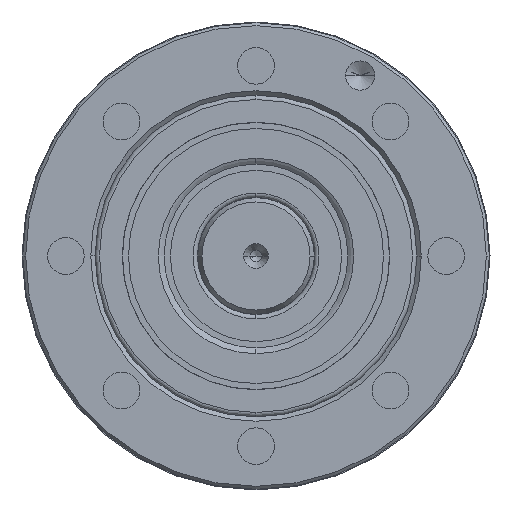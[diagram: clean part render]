
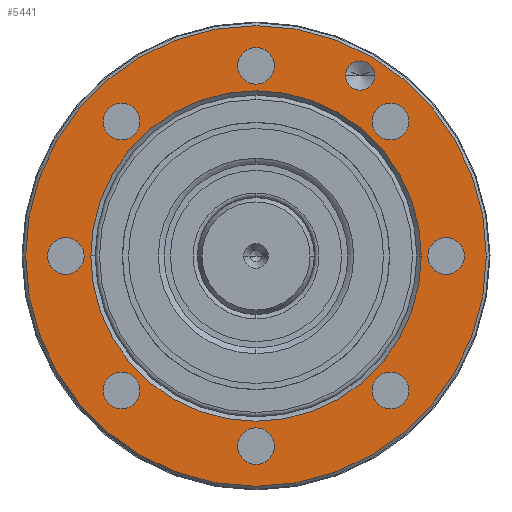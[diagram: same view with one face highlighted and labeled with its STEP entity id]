
A CAD part, left-side view. The second image highlights one B-rep face of the part: STEP entity #5441.
In plain terms, the highlighted planar face has unit normal (-1, 0, 0).
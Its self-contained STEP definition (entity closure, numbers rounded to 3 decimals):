
#1116=CARTESIAN_POINT('',(-2.85,0.,0.));
#1117=DIRECTION('',(-1.,0.,0.));
#1118=DIRECTION('',(0.,1.,0.));
#1119=AXIS2_PLACEMENT_3D('',#1116,#1117,#1118);
#1124=CARTESIAN_POINT('',(-2.85,0.,0.));
#1125=DIRECTION('',(-1.,0.,0.));
#1126=DIRECTION('',(0.,-1.,0.));
#1127=AXIS2_PLACEMENT_3D('',#1124,#1125,#1126);
#1132=CARTESIAN_POINT('',(-2.85,13.,0.));
#1133=DIRECTION('',(-1.,0.,0.));
#1134=DIRECTION('',(0.,1.,0.));
#1135=AXIS2_PLACEMENT_3D('',#1132,#1133,#1134);
#1140=CARTESIAN_POINT('',(-2.85,13.,0.));
#1141=DIRECTION('',(-1.,0.,0.));
#1142=DIRECTION('',(0.,-1.,0.));
#1143=AXIS2_PLACEMENT_3D('',#1140,#1141,#1142);
#1148=CARTESIAN_POINT('',(-2.85,9.192,9.192));
#1149=DIRECTION('',(-1.,0.,0.));
#1150=DIRECTION('',(0.,0.707,0.707));
#1151=AXIS2_PLACEMENT_3D('',#1148,#1149,#1150);
#1156=CARTESIAN_POINT('',(-2.85,9.192,9.192));
#1157=DIRECTION('',(-1.,0.,0.));
#1158=DIRECTION('',(0.,-0.707,-0.707));
#1159=AXIS2_PLACEMENT_3D('',#1156,#1157,#1158);
#1164=CARTESIAN_POINT('',(-2.85,0.,13.));
#1165=DIRECTION('',(-1.,0.,0.));
#1166=DIRECTION('',(0.,0.,1.));
#1167=AXIS2_PLACEMENT_3D('',#1164,#1165,#1166);
#1172=CARTESIAN_POINT('',(-2.85,0.,13.));
#1173=DIRECTION('',(-1.,0.,0.));
#1174=DIRECTION('',(0.,0.,-1.));
#1175=AXIS2_PLACEMENT_3D('',#1172,#1173,#1174);
#1180=CARTESIAN_POINT('',(-2.85,-9.192,9.192));
#1181=DIRECTION('',(-1.,0.,0.));
#1182=DIRECTION('',(0.,-0.707,0.707));
#1183=AXIS2_PLACEMENT_3D('',#1180,#1181,#1182);
#1188=CARTESIAN_POINT('',(-2.85,-9.192,9.192));
#1189=DIRECTION('',(-1.,0.,0.));
#1190=DIRECTION('',(0.,0.707,-0.707));
#1191=AXIS2_PLACEMENT_3D('',#1188,#1189,#1190);
#1196=CARTESIAN_POINT('',(-2.85,-13.,0.));
#1197=DIRECTION('',(-1.,0.,0.));
#1198=DIRECTION('',(0.,-1.,0.));
#1199=AXIS2_PLACEMENT_3D('',#1196,#1197,#1198);
#1204=CARTESIAN_POINT('',(-2.85,-13.,0.));
#1205=DIRECTION('',(-1.,0.,0.));
#1206=DIRECTION('',(0.,1.,0.));
#1207=AXIS2_PLACEMENT_3D('',#1204,#1205,#1206);
#1212=CARTESIAN_POINT('',(-2.85,-9.192,-9.192));
#1213=DIRECTION('',(-1.,0.,0.));
#1214=DIRECTION('',(0.,-0.707,-0.707));
#1215=AXIS2_PLACEMENT_3D('',#1212,#1213,#1214);
#1220=CARTESIAN_POINT('',(-2.85,-9.192,-9.192));
#1221=DIRECTION('',(-1.,0.,0.));
#1222=DIRECTION('',(0.,0.707,0.707));
#1223=AXIS2_PLACEMENT_3D('',#1220,#1221,#1222);
#1228=CARTESIAN_POINT('',(-2.85,0.,-13.));
#1229=DIRECTION('',(-1.,0.,0.));
#1230=DIRECTION('',(0.,0.,-1.));
#1231=AXIS2_PLACEMENT_3D('',#1228,#1229,#1230);
#1236=CARTESIAN_POINT('',(-2.85,0.,-13.));
#1237=DIRECTION('',(-1.,0.,0.));
#1238=DIRECTION('',(0.,0.,1.));
#1239=AXIS2_PLACEMENT_3D('',#1236,#1237,#1238);
#1244=CARTESIAN_POINT('',(-2.85,9.192,-9.192));
#1245=DIRECTION('',(-1.,0.,0.));
#1246=DIRECTION('',(0.,0.707,-0.707));
#1247=AXIS2_PLACEMENT_3D('',#1244,#1245,#1246);
#1252=CARTESIAN_POINT('',(-2.85,9.192,-9.192));
#1253=DIRECTION('',(-1.,0.,0.));
#1254=DIRECTION('',(0.,-0.707,0.707));
#1255=AXIS2_PLACEMENT_3D('',#1252,#1253,#1254);
#1260=CARTESIAN_POINT('',(-2.85,0.,0.));
#1261=DIRECTION('',(-1.,0.,0.));
#1262=DIRECTION('',(0.,-1.,0.));
#1263=AXIS2_PLACEMENT_3D('',#1260,#1261,#1262);
#1268=CARTESIAN_POINT('',(-2.85,0.,0.));
#1269=DIRECTION('',(-1.,0.,0.));
#1270=DIRECTION('',(0.,1.,0.));
#1271=AXIS2_PLACEMENT_3D('',#1268,#1269,#1270);
#1276=CARTESIAN_POINT('',(-2.85,-7.125,12.341));
#1277=DIRECTION('',(-1.,0.,0.));
#1278=DIRECTION('',(0.,1.,0.));
#1279=AXIS2_PLACEMENT_3D('',#1276,#1277,#1278);
#1284=CARTESIAN_POINT('',(-2.85,-7.125,12.341));
#1285=DIRECTION('',(-1.,0.,0.));
#1286=DIRECTION('',(0.,-1.,0.));
#1287=AXIS2_PLACEMENT_3D('',#1284,#1285,#1286);
#3840=CARTESIAN_POINT('',(-2.85,14.25,0.));
#3841=CARTESIAN_POINT('',(-2.85,11.75,0.));
#3842=VERTEX_POINT('',#3840);
#3843=VERTEX_POINT('',#3841);
#3844=CARTESIAN_POINT('',(-2.85,10.076,10.076));
#3845=CARTESIAN_POINT('',(-2.85,8.309,8.309));
#3846=VERTEX_POINT('',#3844);
#3847=VERTEX_POINT('',#3845);
#3848=CARTESIAN_POINT('',(-2.85,0.,14.25));
#3849=CARTESIAN_POINT('',(-2.85,0.,11.75));
#3850=VERTEX_POINT('',#3848);
#3851=VERTEX_POINT('',#3849);
#3852=CARTESIAN_POINT('',(-2.85,-10.076,10.076));
#3853=CARTESIAN_POINT('',(-2.85,-8.309,8.309));
#3854=VERTEX_POINT('',#3852);
#3855=VERTEX_POINT('',#3853);
#3856=CARTESIAN_POINT('',(-2.85,-14.25,0.));
#3857=CARTESIAN_POINT('',(-2.85,-11.75,0.));
#3858=VERTEX_POINT('',#3856);
#3859=VERTEX_POINT('',#3857);
#3860=CARTESIAN_POINT('',(-2.85,-10.076,-10.076));
#3861=CARTESIAN_POINT('',(-2.85,-8.309,-8.309));
#3862=VERTEX_POINT('',#3860);
#3863=VERTEX_POINT('',#3861);
#3864=CARTESIAN_POINT('',(-2.85,0.,-14.25));
#3865=CARTESIAN_POINT('',(-2.85,0.,-11.75));
#3866=VERTEX_POINT('',#3864);
#3867=VERTEX_POINT('',#3865);
#3868=CARTESIAN_POINT('',(-2.85,10.076,-10.076));
#3869=CARTESIAN_POINT('',(-2.85,8.309,-8.309));
#3870=VERTEX_POINT('',#3868);
#3871=VERTEX_POINT('',#3869);
#3872=CARTESIAN_POINT('',(-2.85,15.75,0.));
#3873=CARTESIAN_POINT('',(-2.85,-15.75,0.));
#3874=VERTEX_POINT('',#3872);
#3875=VERTEX_POINT('',#3873);
#3880=CARTESIAN_POINT('',(-2.85,-11.3,0.));
#3881=CARTESIAN_POINT('',(-2.85,11.3,0.));
#3882=VERTEX_POINT('',#3880);
#3883=VERTEX_POINT('',#3881);
#3890=CARTESIAN_POINT('',(-2.85,-6.125,12.341));
#3891=CARTESIAN_POINT('',(-2.85,-8.125,12.341));
#3892=VERTEX_POINT('',#3890);
#3893=VERTEX_POINT('',#3891);
#5371=CARTESIAN_POINT('',(-2.85,0.,0.));
#5372=DIRECTION('',(-1.,0.,0.));
#5373=DIRECTION('',(0.,1.,0.));
#5374=AXIS2_PLACEMENT_3D('',#5371,#5372,#5373);
#5375=PLANE('',#5374);
#5377=ORIENTED_EDGE('',*,*,#5376,.F.);
#5378=ORIENTED_EDGE('',*,*,#5354,.F.);
#5379=EDGE_LOOP('',(#5377,#5378));
#5380=FACE_OUTER_BOUND('',#5379,.F.);
#5382=ORIENTED_EDGE('',*,*,#5381,.T.);
#5384=ORIENTED_EDGE('',*,*,#5383,.T.);
#5385=EDGE_LOOP('',(#5382,#5384));
#5386=FACE_BOUND('',#5385,.F.);
#5388=ORIENTED_EDGE('',*,*,#5387,.T.);
#5390=ORIENTED_EDGE('',*,*,#5389,.T.);
#5391=EDGE_LOOP('',(#5388,#5390));
#5392=FACE_BOUND('',#5391,.F.);
#5394=ORIENTED_EDGE('',*,*,#5393,.T.);
#5396=ORIENTED_EDGE('',*,*,#5395,.T.);
#5397=EDGE_LOOP('',(#5394,#5396));
#5398=FACE_BOUND('',#5397,.F.);
#5400=ORIENTED_EDGE('',*,*,#5399,.T.);
#5402=ORIENTED_EDGE('',*,*,#5401,.T.);
#5403=EDGE_LOOP('',(#5400,#5402));
#5404=FACE_BOUND('',#5403,.F.);
#5406=ORIENTED_EDGE('',*,*,#5405,.T.);
#5408=ORIENTED_EDGE('',*,*,#5407,.T.);
#5409=EDGE_LOOP('',(#5406,#5408));
#5410=FACE_BOUND('',#5409,.F.);
#5412=ORIENTED_EDGE('',*,*,#5411,.T.);
#5414=ORIENTED_EDGE('',*,*,#5413,.T.);
#5415=EDGE_LOOP('',(#5412,#5414));
#5416=FACE_BOUND('',#5415,.F.);
#5418=ORIENTED_EDGE('',*,*,#5417,.T.);
#5420=ORIENTED_EDGE('',*,*,#5419,.T.);
#5421=EDGE_LOOP('',(#5418,#5420));
#5422=FACE_BOUND('',#5421,.F.);
#5424=ORIENTED_EDGE('',*,*,#5423,.T.);
#5426=ORIENTED_EDGE('',*,*,#5425,.T.);
#5427=EDGE_LOOP('',(#5424,#5426));
#5428=FACE_BOUND('',#5427,.F.);
#5430=ORIENTED_EDGE('',*,*,#5429,.T.);
#5432=ORIENTED_EDGE('',*,*,#5431,.T.);
#5433=EDGE_LOOP('',(#5430,#5432));
#5434=FACE_BOUND('',#5433,.F.);
#5436=ORIENTED_EDGE('',*,*,#5435,.T.);
#5438=ORIENTED_EDGE('',*,*,#5437,.T.);
#5439=EDGE_LOOP('',(#5436,#5438));
#5440=FACE_BOUND('',#5439,.F.);
#5441=ADVANCED_FACE('',(#5380,#5386,#5392,#5398,#5404,#5410,#5416,#5422,#5428,
#5434,#5440),#5375,.T.);
#1120=CIRCLE('',#1119,15.75);
#1128=CIRCLE('',#1127,15.75);
#1136=CIRCLE('',#1135,1.25);
#1144=CIRCLE('',#1143,1.25);
#1152=CIRCLE('',#1151,1.25);
#1160=CIRCLE('',#1159,1.25);
#1168=CIRCLE('',#1167,1.25);
#1176=CIRCLE('',#1175,1.25);
#1184=CIRCLE('',#1183,1.25);
#1192=CIRCLE('',#1191,1.25);
#1200=CIRCLE('',#1199,1.25);
#1208=CIRCLE('',#1207,1.25);
#1216=CIRCLE('',#1215,1.25);
#1224=CIRCLE('',#1223,1.25);
#1232=CIRCLE('',#1231,1.25);
#1240=CIRCLE('',#1239,1.25);
#1248=CIRCLE('',#1247,1.25);
#1256=CIRCLE('',#1255,1.25);
#1264=CIRCLE('',#1263,11.3);
#1272=CIRCLE('',#1271,11.3);
#1280=CIRCLE('',#1279,1.);
#1288=CIRCLE('',#1287,1.);
#5354=EDGE_CURVE('',#3875,#3874,#1128,.T.);
#5376=EDGE_CURVE('',#3874,#3875,#1120,.T.);
#5381=EDGE_CURVE('',#3842,#3843,#1136,.T.);
#5383=EDGE_CURVE('',#3843,#3842,#1144,.T.);
#5387=EDGE_CURVE('',#3846,#3847,#1152,.T.);
#5389=EDGE_CURVE('',#3847,#3846,#1160,.T.);
#5393=EDGE_CURVE('',#3850,#3851,#1168,.T.);
#5395=EDGE_CURVE('',#3851,#3850,#1176,.T.);
#5399=EDGE_CURVE('',#3854,#3855,#1184,.T.);
#5401=EDGE_CURVE('',#3855,#3854,#1192,.T.);
#5405=EDGE_CURVE('',#3858,#3859,#1200,.T.);
#5407=EDGE_CURVE('',#3859,#3858,#1208,.T.);
#5411=EDGE_CURVE('',#3862,#3863,#1216,.T.);
#5413=EDGE_CURVE('',#3863,#3862,#1224,.T.);
#5417=EDGE_CURVE('',#3866,#3867,#1232,.T.);
#5419=EDGE_CURVE('',#3867,#3866,#1240,.T.);
#5423=EDGE_CURVE('',#3870,#3871,#1248,.T.);
#5425=EDGE_CURVE('',#3871,#3870,#1256,.T.);
#5429=EDGE_CURVE('',#3882,#3883,#1264,.T.);
#5431=EDGE_CURVE('',#3883,#3882,#1272,.T.);
#5435=EDGE_CURVE('',#3892,#3893,#1280,.T.);
#5437=EDGE_CURVE('',#3893,#3892,#1288,.T.);
